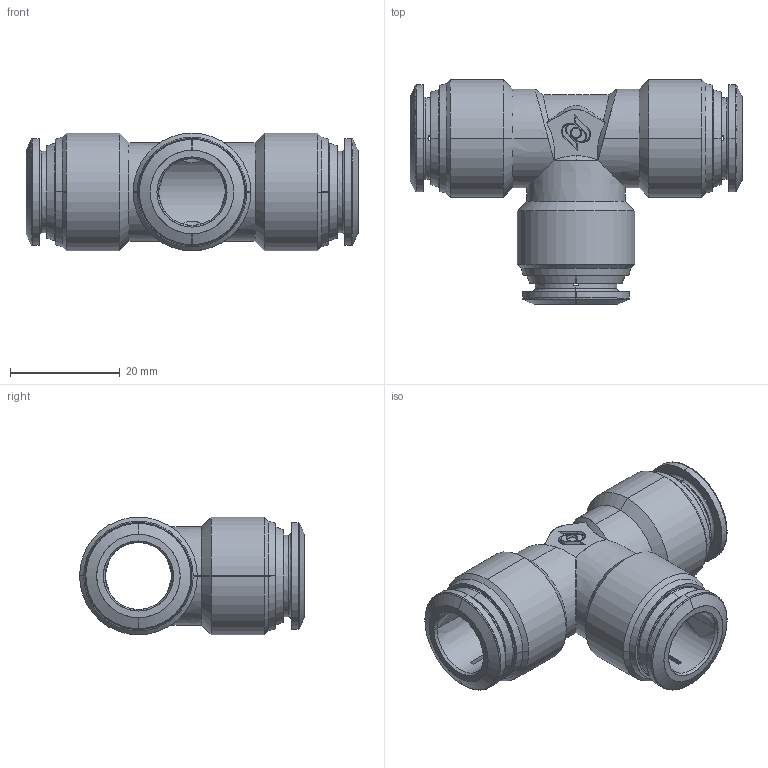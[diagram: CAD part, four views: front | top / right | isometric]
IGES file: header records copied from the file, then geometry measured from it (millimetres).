
Start section: SolidWorks IGES file using analytic representation for surfaces
Global section: file name: C:\Users\cad06\Desktop\Nuova cartella\40230V0005A.IGS; native system: SolidWorks 2016; preprocessor: SolidWorks 2016; author: cad06; date: 160519.144938; units: millimetre
Bounding box: 60.6 x 41.05 x 21.5 mm (x, y, z)
Surface area: 8845.7 mm2 (no closed solid volume)
Topology: 0 solids, 0 shells, 169 faces, 2285 edges, 2285 vertices
Faces by surface type: revolution 102, bspline 67
